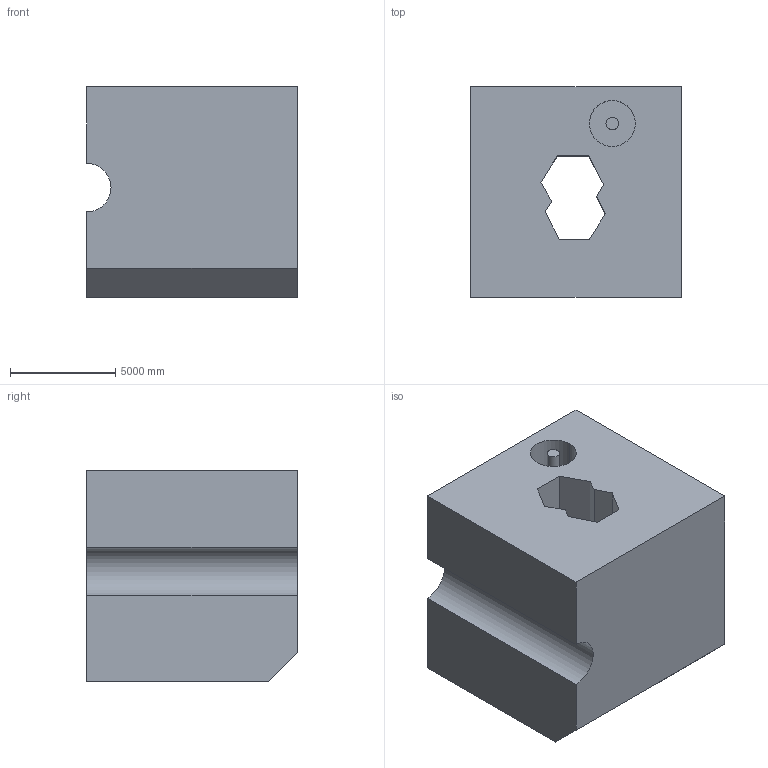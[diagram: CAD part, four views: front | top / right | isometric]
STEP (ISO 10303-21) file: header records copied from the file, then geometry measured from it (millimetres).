
FILE_DESCRIPTION (( 'STEP AP203' ), '1' );
FILE_NAME ('1495.STEP', '2022-08-18T14:49:39', ( 'user' ), ( '' ), 'SwSTEP 2.0', 'SolidWorks 2021', '' );
FILE_SCHEMA (( 'CONFIG_CONTROL_DESIGN' ));
Length unit declared in the file: centimetre
Products named in the file (1): 1495
Bounding box: 10000 x 10000 x 10000 mm (x, y, z)
Volume: 867905897719.9 mm3; surface area: 726025235.1 mm2
Topology: 1 solids, 1 shells, 25 faces, 63 edges, 42 vertices
Faces by surface type: plane 20, cylinder 5
Entity records: 828 total; most frequent: CARTESIAN_POINT 131, ORIENTED_EDGE 126, DIRECTION 125, EDGE_CURVE 63, LINE 53, VECTOR 53, VERTEX_POINT 42, AXIS2_PLACEMENT_3D 36
